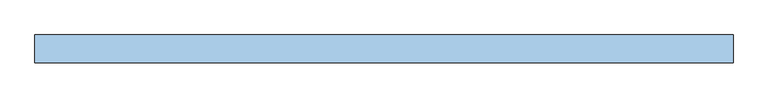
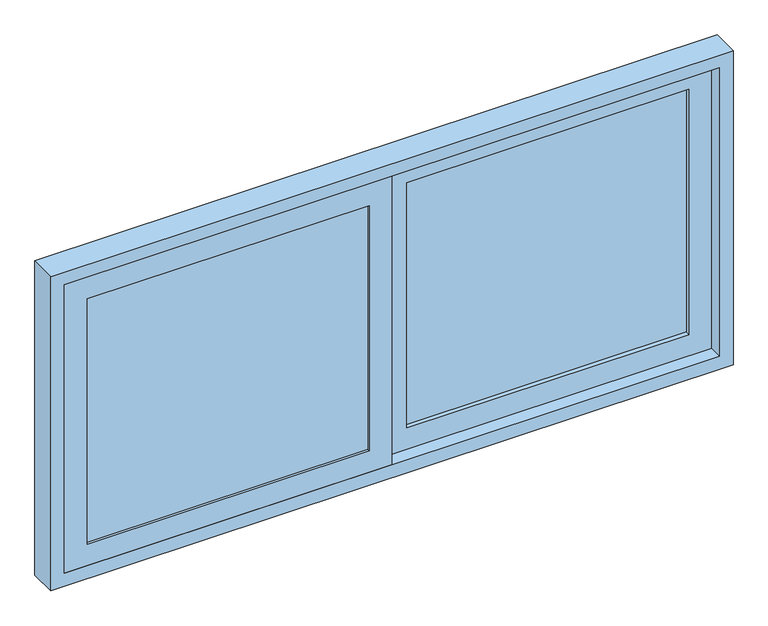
"""IFC4 building model written with IfcOpenShell, lengths in millimetres: window geometry, Janela Correr (bancada)- 2 folhas.GLE : 150X70 h=17 (Abrir 2 folhas)."""

from ifc_helpers import new_model, si_unit, frame, origin, place, context, project, spatial, polyline, outline, extrude, source, transform, mapped, element, save


def window_31080834(model_context):
    return source(origin(), model_context, "Body", "SweptSolid", [
        extrude(outline(polyline([(1000.0, -750.0), (1000.0, 750.0), (1730.0, 750.0), (1730.0, -750.0), (1000.0, -750.0)]), holes=[polyline([(1700.0, -720.0), (1700.0, 720.0), (1030.0, 720.0), (1030.0, -720.0), (1700.0, -720.0)])]), frame((0.0, -30.0, 0.0), z_axis=(0.0, 1.0, 0.0), x_axis=(0.0, 0.0, 1.0)), (0.0, 0.0, 1.0), 60.0),
        extrude(outline(polyline([(-50.0, -25.0), (-670.0, -25.0), (-670.0, -15.0), (-50.0, -15.0), (-50.0, -25.0)])), frame((0.0, 0.0, 1080.0), z_axis=(0.0, 0.0, 1.0), x_axis=(1.0, 0.0, 0.0)), (0.0, 0.0, 1.0), 570.0),
        extrude(outline(polyline([(670.0, 10.0), (50.0, 10.0), (50.0, 20.0), (670.0, 20.0), (670.0, 10.0)])), frame((0.0, 0.0, 1080.0), z_axis=(0.0, 0.0, 1.0), x_axis=(1.0, 0.0, 0.0)), (0.0, 0.0, 1.0), 570.0),
        extrude(outline(polyline([(1700.0, 0.0), (1030.0, 0.0), (1030.0, 720.0), (1700.0, 720.0), (1700.0, 0.0)]), holes=[polyline([(1650.0, 50.0), (1650.0, 670.0), (1080.0, 670.0), (1080.0, 50.0), (1650.0, 50.0)])]), frame((0.0, 0.0, 0.0), z_axis=(0.0, 1.0, 0.0), x_axis=(0.0, 0.0, 1.0)), (0.0, 0.0, 1.0), 30.0),
        extrude(outline(polyline([(1700.0, -720.0), (1030.0, -720.0), (1030.0, 0.0), (1700.0, 0.0), (1700.0, -720.0)]), holes=[polyline([(1650.0, -670.0), (1650.0, -50.0), (1080.0, -50.0), (1080.0, -670.0), (1650.0, -670.0)])]), frame((0.0, -30.0, 0.0), z_axis=(0.0, 1.0, 0.0), x_axis=(0.0, 0.0, 1.0)), (0.0, 0.0, 1.0), 30.0),
    ])


if __name__ == "__main__":
    model = new_model("IFC4")
    model_context = context("Model", 3, world=origin())
    ifc_project = project(units=[si_unit("LENGTHUNIT", "METRE", prefix="MILLI")], contexts=[model_context])
    site = spatial("IfcSite", under=ifc_project)
    building = spatial("IfcBuilding", under=site)
    placement = place(None, origin())
    window_shape = window_31080834(model_context)
    element("IfcWindow", 1, ObjectType="Janela Correr (bancada)- 2 folhas.GLE : 150X70 h=17 (Abrir 2 folhas)", at=placement, inside=building, context=model_context, shape_type="MappedRepresentation", body=[
        mapped(window_shape, transform((0.0, 0.0, 0.0), x_axis=(1.0, 0.0, 0.0), y_axis=(0.0, 1.0, 0.0), z_axis=(0.0, 0.0, 1.0))),
    ])
    save(model, "model.ifc")
